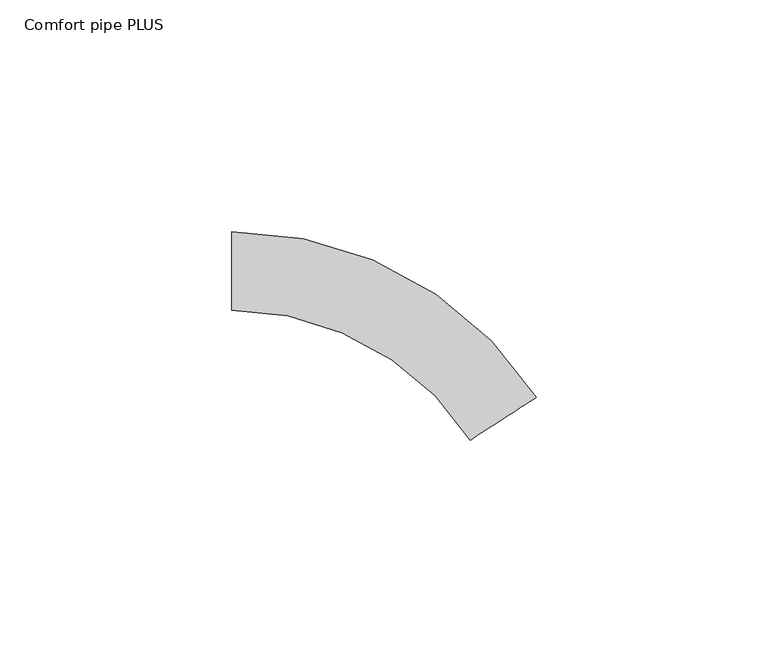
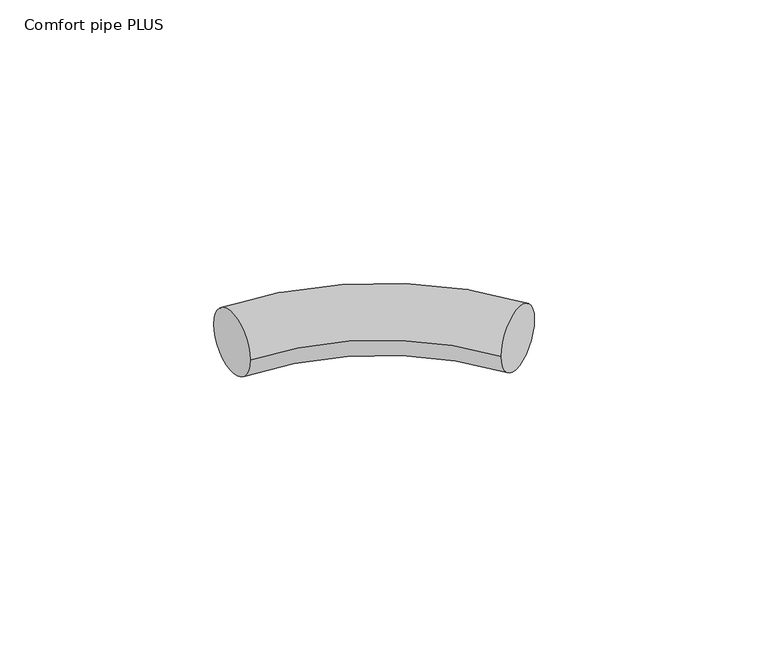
"""IFC4 building model written with IfcOpenShell, lengths in millimetres: pipe fitting geometry, 400_5-_Uponor_curved_Elbow : Comfort pipe PLUS."""

from ifc_helpers import new_model, si_unit, point, frame, origin, place, context, project, spatial, circle_curve, ellipse_curve, trimmed, source, transform, mapped, element, save
from ifc_brep_helpers import plane_surface, revolved_surface, advanced_brep


def comfort_pipe_plus_1347b288(model_context):
    return source(origin(), model_context, "Body", "AdvancedBrep", [
        advanced_brep(
        [(-38.0434106, 8.5, 0.0), (-38.0434106, -8.5, 0.0), (27.8266461, -27.2988802, 0.0), (13.561793, -36.5462565, 0.0)],
        [
            (0, 1, circle_curve(frame((-38.0434106, 0.0, 0.0), z_axis=(-1.0, 0.0, 0.0), x_axis=(0.0, -1.0, 0.0)), 8.5)),
            (1, 0, circle_curve(frame((-38.0434106, 0.0, 0.0), z_axis=(-1.0, 0.0, 0.0), x_axis=(0.0, -1.0, 0.0)), 8.5)),
            (2, 3, circle_curve(frame((20.6942195, -31.9225683, 0.0), z_axis=(0.5439633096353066, -0.8391090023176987, 0.0), x_axis=(-0.8391090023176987, -0.5439633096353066, 0.0)), 8.5)),
            (3, 2, circle_curve(frame((20.6942195, -31.9225683, 0.0), z_axis=(0.5439633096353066, -0.8391090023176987, 0.0), x_axis=(-0.8391090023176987, -0.5439633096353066, 0.0)), 8.5)),
            (2, 0, circle_curve(frame((-38.0434106, -70.0, 0.0), z_axis=(0.0, 0.0, 1.0), x_axis=(0.0, 1.0, 0.0)), 78.5)),
            (1, 3, circle_curve(frame((-38.0434106, -70.0, 0.0), z_axis=(0.0, 0.0, -1.0), x_axis=(0.0, 1.0, 0.0)), 61.5)),
        ],
        [
            plane_surface(frame((-38.0434106, 0.0, 0.0), z_axis=(-1.0, 0.0, 0.0), x_axis=(0.0, 0.0, 1.0))),
            plane_surface(frame((20.6942195, -31.9225683, 0.0), z_axis=(0.5439633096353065, -0.8391090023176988, 0.0), x_axis=(0.0, 0.0, 1.0))),
            revolved_surface(trimmed(ellipse_curve(frame((-38.0434106, 0.0, 0.0), z_axis=(1.0, 0.0, 0.0), x_axis=(0.0, -1.0, 0.0)), 8.5, 8.5), [point((-38.0434106, 8.5, 0.0))], [point((-38.0434106, -8.5, 0.0))], True, "CARTESIAN"), (-38.0434106, -70.0, 0.0), (0.0, 0.0, 1.0)),
            revolved_surface(trimmed(ellipse_curve(frame((-38.0434106, 0.0, 0.0), z_axis=(1.0, 0.0, 0.0), x_axis=(0.0, -1.0, 0.0)), 8.5, 8.5), [point((-38.0434106, -8.5, 0.0))], [point((-38.0434106, 8.5, 0.0))], True, "CARTESIAN"), (-38.0434106, -70.0, 0.0), (0.0, 0.0, 1.0)),
        ],
        [
            (0, [[1, 2]]),
            (1, [[3, 4]]),
            (2, [[-3, 5, -2, 6]]),
            (3, [[-4, -6, -1, -5]]),
        ],
    ),
    ])


if __name__ == "__main__":
    model = new_model("IFC4")
    model_context = context("Model", 3, world=origin())
    ifc_project = project(units=[si_unit("LENGTHUNIT", "METRE", prefix="MILLI")], contexts=[model_context])
    site = spatial("IfcSite", under=ifc_project)
    building = spatial("IfcBuilding", under=site)
    placement = place(None, origin())
    comfort_pipe_plus_shape = comfort_pipe_plus_1347b288(model_context)
    element("IfcPipeFitting", 1, ObjectType="400_5-_Uponor_curved_Elbow : Comfort pipe PLUS", at=placement, inside=building, context=model_context, shape_type="MappedRepresentation", body=[
        mapped(comfort_pipe_plus_shape, transform((0.0, 0.0, 0.0), x_axis=(1.0, 0.0, 0.0), y_axis=(0.0, 1.0, 0.0), z_axis=(0.0, 0.0, 1.0))),
    ])
    save(model, "model.ifc")
